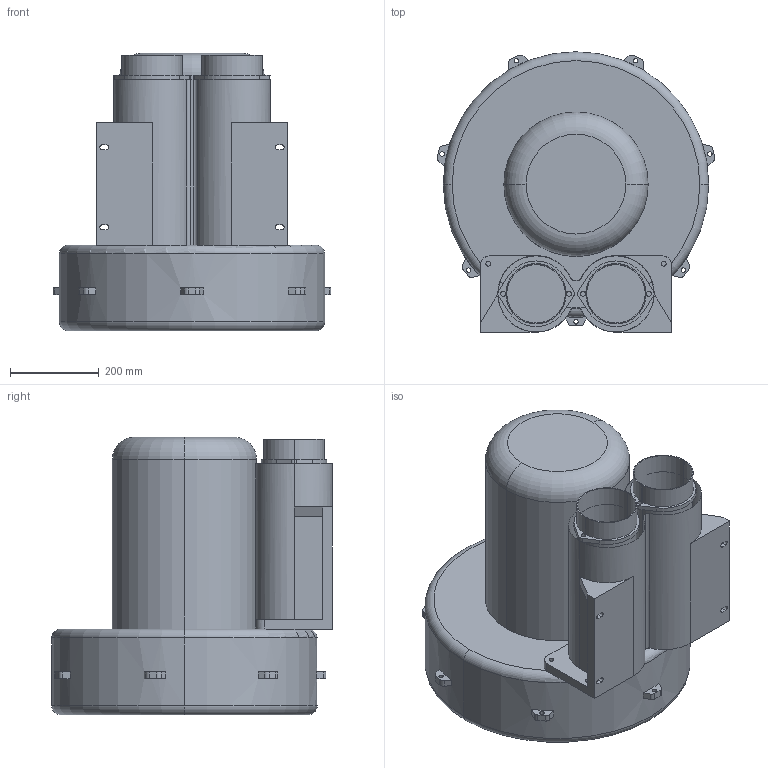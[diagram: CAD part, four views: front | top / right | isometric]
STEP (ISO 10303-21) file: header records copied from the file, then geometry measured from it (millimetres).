
FILE_DESCRIPTION (( 'STEP AP203' ), '1' );
FILE_NAME ('11000.STEP', '2019-05-09T03:43:25', ( 'User' ), ( 'www.dadighost.com' ), 'SwSTEP 2.0', 'SolidWorks 2014', '' );
FILE_SCHEMA (( 'CONFIG_CONTROL_DESIGN' ));
Length unit declared in the file: millimetre
Products named in the file (1): 11000
Bounding box: 625.36 x 632 x 625 mm (x, y, z)
Volume: 100621739.9 mm3; surface area: 2173601.3 mm2
Topology: 1 solids, 1 shells, 181 faces, 464 edges, 303 vertices
Faces by surface type: plane 90, cylinder 85, torus 6
Entity records: 5686 total; most frequent: DIRECTION 1039, CARTESIAN_POINT 949, ORIENTED_EDGE 928, EDGE_CURVE 464, AXIS2_PLACEMENT_3D 393, VERTEX_POINT 303, VECTOR 253, LINE 253
